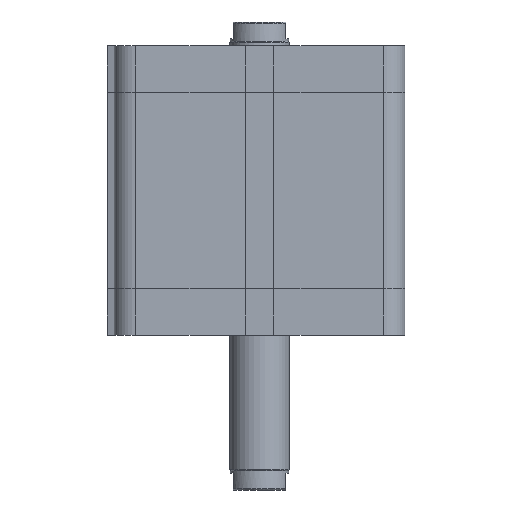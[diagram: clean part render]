
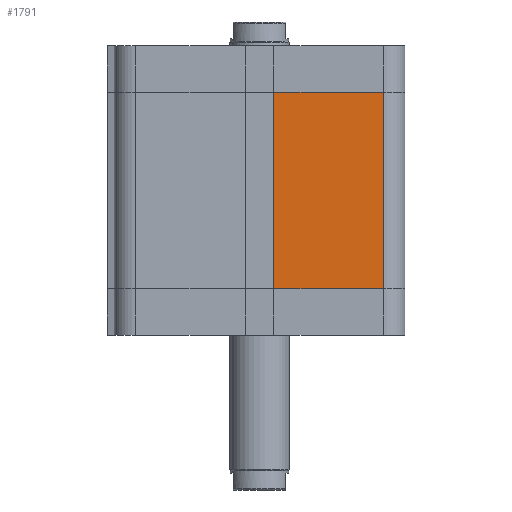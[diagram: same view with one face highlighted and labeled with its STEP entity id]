
A CAD part, left-side view. The second image highlights one B-rep face of the part: STEP entity #1791.
In plain terms, the highlighted planar face has unit normal (-1, 0, 0).
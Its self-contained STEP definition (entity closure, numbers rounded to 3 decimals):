
#1704=CARTESIAN_POINT('',(-61.,-6.,19.5));
#1705=VERTEX_POINT('',#1704);
#1712=CARTESIAN_POINT('',(-61.,-6.,102.0));
#1713=VERTEX_POINT('',#1712);
#1714=CARTESIAN_POINT('',(-61.,-6.,19.5));
#1715=DIRECTION('',(0.0,0.0,1.0));
#1716=VECTOR('',#1715,82.5);
#1717=LINE('',#1714,#1716);
#1718=EDGE_CURVE('',#1705,#1713,#1717,.T.);
#1761=CARTESIAN_POINT('',(-61.0,-52.,0.0));
#1762=DIRECTION('',(-1.0,0.0,0.0));
#1763=DIRECTION('',(0.0,0.0,1.0));
#1764=AXIS2_PLACEMENT_3D('',#1761,#1762,#1763);
#1765=PLANE('',#1764);
#1766=CARTESIAN_POINT('',(-61.0,-52.,19.5));
#1767=VERTEX_POINT('',#1766);
#1768=CARTESIAN_POINT('',(-61.,-6.0,19.5));
#1769=DIRECTION('',(0.0,-1.0,0.0));
#1770=VECTOR('',#1769,46.);
#1771=LINE('',#1768,#1770);
#1772=EDGE_CURVE('',#1705,#1767,#1771,.T.);
#1773=ORIENTED_EDGE('',*,*,#1772,.T.);
#1774=CARTESIAN_POINT('',(-61.0,-52.,102.0));
#1775=VERTEX_POINT('',#1774);
#1776=CARTESIAN_POINT('',(-61.0,-52.,19.5));
#1777=DIRECTION('',(0.0,0.0,1.0));
#1778=VECTOR('',#1777,82.5);
#1779=LINE('',#1776,#1778);
#1780=EDGE_CURVE('',#1767,#1775,#1779,.T.);
#1781=ORIENTED_EDGE('',*,*,#1780,.T.);
#1782=CARTESIAN_POINT('',(-61.,-6.0,102.0));
#1783=DIRECTION('',(0.0,-1.0,0.0));
#1784=VECTOR('',#1783,46.);
#1785=LINE('',#1782,#1784);
#1786=EDGE_CURVE('',#1713,#1775,#1785,.T.);
#1787=ORIENTED_EDGE('',*,*,#1786,.F.);
#1788=ORIENTED_EDGE('',*,*,#1718,.F.);
#1789=EDGE_LOOP('',(#1773,#1781,#1787,#1788));
#1790=FACE_OUTER_BOUND('',#1789,.T.);
#1791=ADVANCED_FACE('',(#1790),#1765,.T.);
